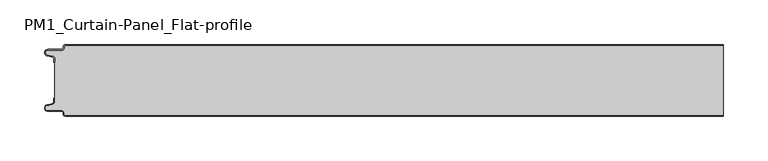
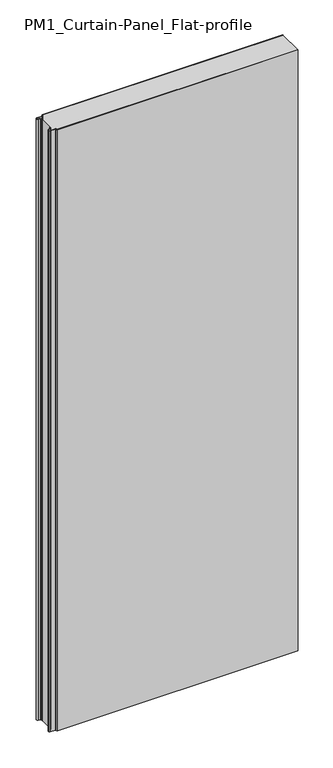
"""IFC4 building model written with IfcOpenShell, lengths in millimetres: plate geometry, PM1_Curtain-Panel_Flat-profile : ACH_PM1_Stone-wool-Panel_80M."""

from ifc_helpers import new_model, si_unit, point, frame_2d, origin, origin_with_axes, place, context, project, spatial, polyline, circle_curve, trimmed, segment, composite_curve, outline, extrude, source, transform, mapped, element, save


def pm1_curtain_panel_flat_profile_61f180d3(model_context):
    return source(origin(), model_context, "Body", "SweptSolid", [
        extrude(outline(composite_curve([segment(trimmed(circle_curve(frame_2d((-362.4119739, -2.0)), 1.2), [point((-362.4119739, -0.8))], [point((-363.6119739, -2.0))], True, "CARTESIAN"), True, "CONTINUOUS"), segment(polyline([(-363.6119739, -2.0), (-363.6119739, -3.4)]), True, "CONTINUOUS"), segment(trimmed(circle_curve(frame_2d((-366.4119739, -3.4)), 2.8), [point((-363.6119739, -3.4))], [point((-366.4119739, -6.2))], False, "CARTESIAN"), True, "CONTINUOUS"), segment(polyline([(-366.4119739, -6.2), (-381.9119739, -6.2)]), True, "CONTINUOUS"), segment(trimmed(circle_curve(frame_2d((-381.9119739, -9.0)), 2.8), [point((-381.9119739, -6.2))], [point((-382.541837, -11.7282362))], True, "CARTESIAN"), True, "CONTINUOUS"), segment(polyline([(-382.541837, -11.7282362), (-376.3821109, -13.150321)]), True, "CONTINUOUS"), segment(trimmed(circle_curve(frame_2d((-377.0119739, -15.878557)), 2.8), [point((-376.3821109, -13.150321))], [point((-374.2119739, -15.878557))], False, "CARTESIAN"), True, "CONTINUOUS"), segment(polyline([(-374.2119739, -15.878557), (-374.2119739, -20.0), (-375.0119739, -20.0), (-375.0119739, -15.878557)]), True, "CONTINUOUS"), segment(trimmed(circle_curve(frame_2d((-377.0119739, -15.878557)), 2.0), [point((-375.0119739, -15.878557))], [point((-376.5620718, -13.9298169))], True, "CARTESIAN"), True, "CONTINUOUS"), segment(polyline([(-376.5620718, -13.9298169), (-382.7217978, -12.507732)]), True, "CONTINUOUS"), segment(trimmed(circle_curve(frame_2d((-381.9119739, -9.0)), 3.6), [point((-382.7217978, -12.507732))], [point((-381.9119739, -5.4))], False, "CARTESIAN"), True, "CONTINUOUS"), segment(polyline([(-381.9119739, -5.4), (-366.4119739, -5.4)]), True, "CONTINUOUS"), segment(trimmed(circle_curve(frame_2d((-366.4119739, -3.4)), 2.0), [point((-366.4119739, -5.4))], [point((-364.4119739, -3.4))], True, "CARTESIAN"), True, "CONTINUOUS"), segment(polyline([(-364.4119739, -3.4), (-364.4119739, -2.0)]), True, "CONTINUOUS"), segment(trimmed(circle_curve(frame_2d((-362.4119739, -2.0)), 2.0), [point((-364.4119739, -2.0))], [point((-362.4119739, 0.0))], False, "CARTESIAN"), True, "CONTINUOUS"), segment(polyline([(-362.4119739, 0.0), (375.0119739, 0.0), (375.0119739, -0.8), (-362.4119739, -0.8)]), True, "CONTINUOUS")], self_intersect=False)), origin_with_axes(), (0.0, 0.0, 1.0), 1945.7507136),
        extrude(outline(composite_curve([segment(polyline([(-374.2119739, -64.1214426), (-374.2119739, -15.8785573)]), True, "CONTINUOUS"), segment(trimmed(circle_curve(frame_2d((-377.0119739, -15.8785573)), 2.8), [point((-374.2119739, -15.8785573))], [point((-376.3821109, -13.1503212))], True, "CARTESIAN"), True, "CONTINUOUS"), segment(polyline([(-376.3821109, -13.1503212), (-382.541837, -11.7282362)]), True, "CONTINUOUS"), segment(trimmed(circle_curve(frame_2d((-381.911974, -9.0)), 2.8), [point((-382.541837, -11.7282362))], [point((-381.911974, -6.2))], False, "CARTESIAN"), True, "CONTINUOUS"), segment(polyline([(-381.911974, -6.2), (-366.411974, -6.2)]), True, "CONTINUOUS"), segment(trimmed(circle_curve(frame_2d((-366.411974, -3.4)), 2.8), [point((-366.411974, -6.2))], [point((-363.611974, -3.4))], True, "CARTESIAN"), True, "CONTINUOUS"), segment(polyline([(-363.611974, -3.4), (-363.611974, -2.0)]), True, "CONTINUOUS"), segment(trimmed(circle_curve(frame_2d((-362.411974, -2.0)), 1.2), [point((-363.611974, -2.0))], [point((-362.411974, -0.8))], False, "CARTESIAN"), True, "CONTINUOUS"), segment(polyline([(-362.411974, -0.8), (375.0119739, -0.8), (375.0119739, -79.2), (-362.411974, -79.2)]), True, "CONTINUOUS"), segment(trimmed(circle_curve(frame_2d((-362.411974, -78.0)), 1.2), [point((-362.411974, -79.2))], [point((-363.611974, -78.0))], False, "CARTESIAN"), True, "CONTINUOUS"), segment(polyline([(-363.611974, -78.0), (-363.611974, -76.6)]), True, "CONTINUOUS"), segment(trimmed(circle_curve(frame_2d((-366.411974, -76.6)), 2.8), [point((-363.611974, -76.6))], [point((-366.411974, -73.8))], True, "CARTESIAN"), True, "CONTINUOUS"), segment(polyline([(-366.411974, -73.8), (-381.911974, -73.8)]), True, "CONTINUOUS"), segment(trimmed(circle_curve(frame_2d((-381.911974, -71.0)), 2.8), [point((-381.911974, -73.8))], [point((-382.541837, -68.2717638))], False, "CARTESIAN"), True, "CONTINUOUS"), segment(polyline([(-382.541837, -68.2717638), (-376.3821109, -66.8496788)]), True, "CONTINUOUS"), segment(trimmed(circle_curve(frame_2d((-377.0119739, -64.1214426)), 2.8), [point((-376.3821109, -66.8496788))], [point((-374.2119739, -64.1214426))], True, "CARTESIAN"), True, "CONTINUOUS")], self_intersect=False)), origin_with_axes(), (0.0, 0.0, 1.0), 1945.7507136),
        extrude(outline(composite_curve([segment(trimmed(circle_curve(frame_2d((-362.4119739, -78.0)), 2.0), [point((-362.4119739, -80.0))], [point((-364.4119739, -78.0))], False, "CARTESIAN"), True, "CONTINUOUS"), segment(polyline([(-364.4119739, -78.0), (-364.4119739, -76.6)]), True, "CONTINUOUS"), segment(trimmed(circle_curve(frame_2d((-366.4119739, -76.6)), 2.0), [point((-364.4119739, -76.6))], [point((-366.4119739, -74.6))], True, "CARTESIAN"), True, "CONTINUOUS"), segment(polyline([(-366.4119739, -74.6), (-381.9119739, -74.6)]), True, "CONTINUOUS"), segment(trimmed(circle_curve(frame_2d((-381.9119739, -71.0)), 3.6), [point((-381.9119739, -74.6))], [point((-382.7217979, -67.4922678))], False, "CARTESIAN"), True, "CONTINUOUS"), segment(polyline([(-382.7217979, -67.4922678), (-376.5620718, -66.070183)]), True, "CONTINUOUS"), segment(trimmed(circle_curve(frame_2d((-377.0119739, -64.121443)), 2.0), [point((-376.5620718, -66.070183))], [point((-375.0119739, -64.121443))], True, "CARTESIAN"), True, "CONTINUOUS"), segment(polyline([(-375.0119739, -64.121443), (-375.0119739, -60.0), (-374.2119739, -60.0), (-374.2119739, -64.121443)]), True, "CONTINUOUS"), segment(trimmed(circle_curve(frame_2d((-377.0119739, -64.121443)), 2.8), [point((-374.2119739, -64.121443))], [point((-376.3821109, -66.8496792))], False, "CARTESIAN"), True, "CONTINUOUS"), segment(polyline([(-376.3821109, -66.8496792), (-382.5418369, -68.271764)]), True, "CONTINUOUS"), segment(trimmed(circle_curve(frame_2d((-381.9119739, -71.0)), 2.8), [point((-382.5418369, -68.271764))], [point((-381.9119739, -73.8))], True, "CARTESIAN"), True, "CONTINUOUS"), segment(polyline([(-381.9119739, -73.8), (-366.4119739, -73.8)]), True, "CONTINUOUS"), segment(trimmed(circle_curve(frame_2d((-366.4119739, -76.6)), 2.8), [point((-366.4119739, -73.8))], [point((-363.6119739, -76.6))], False, "CARTESIAN"), True, "CONTINUOUS"), segment(polyline([(-363.6119739, -76.6), (-363.6119739, -78.0)]), True, "CONTINUOUS"), segment(trimmed(circle_curve(frame_2d((-362.4119739, -78.0)), 1.2), [point((-363.6119739, -78.0))], [point((-362.4119739, -79.2))], True, "CARTESIAN"), True, "CONTINUOUS"), segment(polyline([(-362.4119739, -79.2), (375.0119739, -79.2), (375.0119739, -80.0), (-362.4119739, -80.0)]), True, "CONTINUOUS")], self_intersect=False)), origin_with_axes(), (0.0, 0.0, 1.0), 1945.7507136),
    ])


if __name__ == "__main__":
    model = new_model("IFC4")
    model_context = context("Model", 3, world=origin())
    ifc_project = project(units=[si_unit("LENGTHUNIT", "METRE", prefix="MILLI")], contexts=[model_context])
    site = spatial("IfcSite", under=ifc_project)
    building = spatial("IfcBuilding", under=site)
    placement = place(None, origin())
    pm1_curtain_panel_flat_profile_shape = pm1_curtain_panel_flat_profile_61f180d3(model_context)
    element("IfcPlate", 1, ObjectType="PM1_Curtain-Panel_Flat-profile : ACH_PM1_Stone-wool-Panel_80M", at=placement, inside=building, context=model_context, shape_type="MappedRepresentation", body=[
        mapped(pm1_curtain_panel_flat_profile_shape, transform((0.0, 0.0, 0.0), x_axis=(1.0, 0.0, 0.0), y_axis=(0.0, 1.0, 0.0), z_axis=(0.0, 0.0, 1.0))),
    ])
    save(model, "model.ifc")
